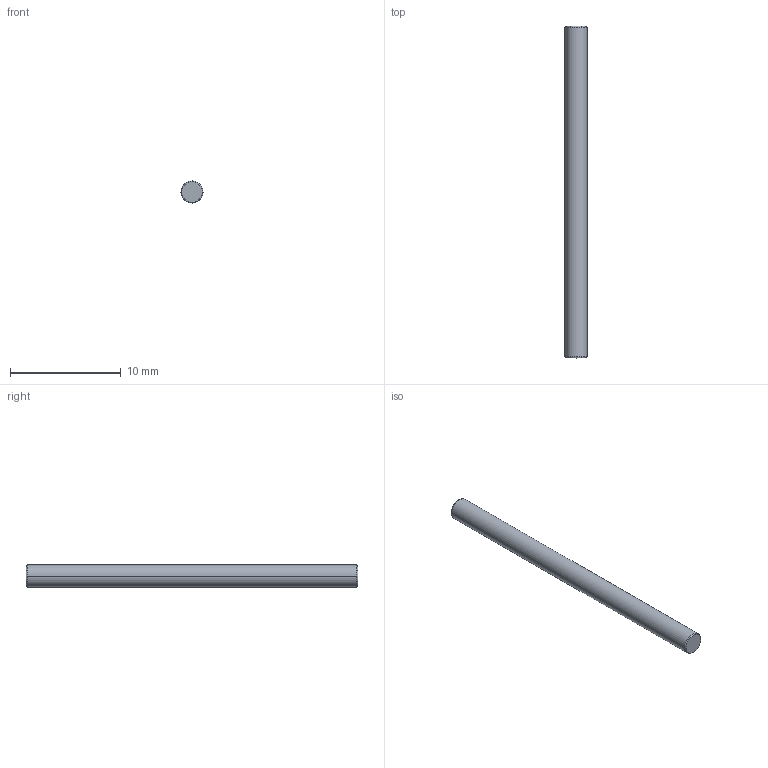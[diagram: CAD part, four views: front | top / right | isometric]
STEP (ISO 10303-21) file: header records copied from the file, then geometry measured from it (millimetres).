
FILE_DESCRIPTION((''),'2;1');
FILE_NAME('PIN','2024-02-21T17:17:58',('qinghui.yi'),(''),'CREO PARAMETRIC BY PTC INC, 2019164','CREO PARAMETRIC BY PTC INC, 2019164','');
FILE_SCHEMA(('CONFIG_CONTROL_DESIGN','SHAPE_APPEARANCE_LAYERS_GROUPS'));
Length unit declared in the file: millimetre
Products named in the file (1): PIN
Bounding box: 2 x 30 x 2 mm (x, y, z)
Volume: 94.2 mm3; surface area: 194.2 mm2
Topology: 1 solids, 1 shells, 8 faces, 17 edges, 14 vertices
Faces by surface type: cone 4, plane 2, cylinder 2
Entity records: 593 total; most frequent: COLOUR_RGB 312, DIRECTION 43, CARTESIAN_POINT 34, ORIENTED_EDGE 28, AXIS2_PLACEMENT_3D 17, EDGE_CURVE 14, VECTOR 9, LINE 9
